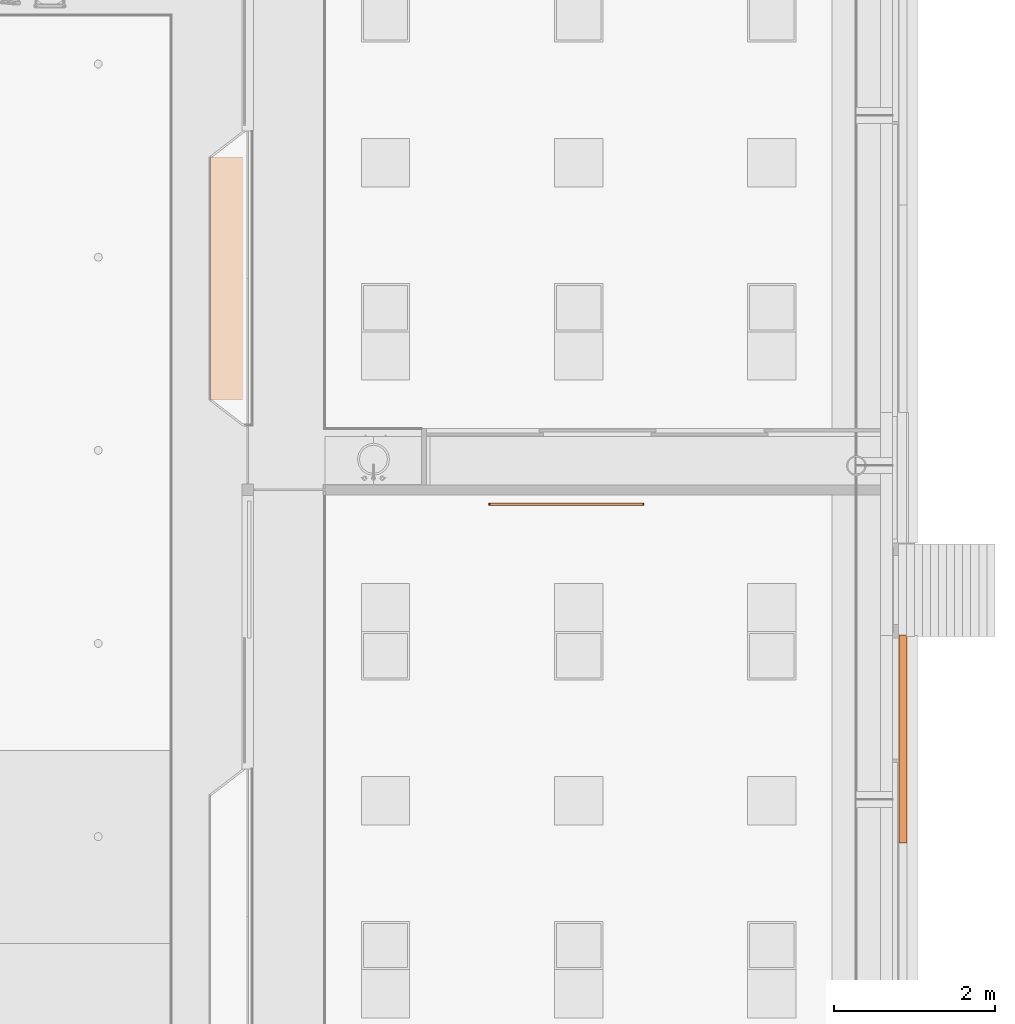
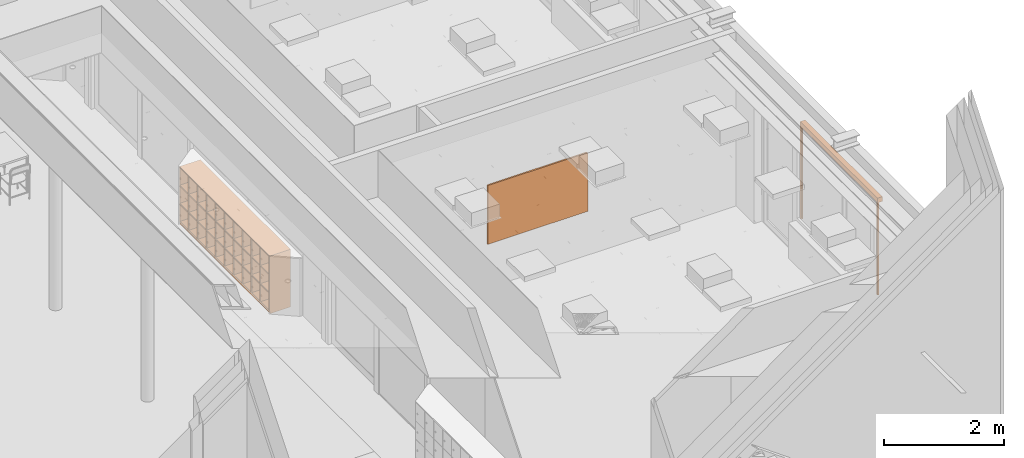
# One storey, part 333 of 347: 3 proxies.
"""IFC2X3 building model written with IfcOpenShell, lengths in millimetres."""

from ifc_helpers import new_model, entity, si_unit, converted_unit, derived_unit, money_unit, direction, frame, origin_with_axes, place, context, subcontext, project, spatial, open_shell, faceted_brep, surface_model, source, transform, mapped, type_object, type_shapes, element, save


model = new_model("IFC2X3")

# Units and contexts
model_context = context("Model", 3, precision=0.01, world=origin_with_axes(), true_north=direction((0.0, 1.0)))
plan_context = context("Plan", 3, precision=0.01, world=origin_with_axes(), true_north=direction((0.0, 1.0)))
body_context = subcontext(model_context, "Body", "Model", "MODEL_VIEW")
ifc_project = project(units=[si_unit("LENGTHUNIT", "METRE", prefix="MILLI"), si_unit("AREAUNIT", "SQUARE_METRE"), si_unit("VOLUMEUNIT", "CUBIC_METRE"), converted_unit("PLANEANGLEUNIT", "DEGREE", entity("IfcPlaneAngleMeasure", 0.0174532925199), si_unit("PLANEANGLEUNIT", "RADIAN"), dimensions=[0, 0, 0, 0, 0, 0, 0]), money_unit("EUR"), converted_unit("TIMEUNIT", "Year", entity("IfcTimeMeasure", 31556926.0), si_unit("TIMEUNIT", "SECOND"), dimensions=[0, 0, 1, 0, 0, 0, 0]), si_unit("MASSUNIT", "GRAM", prefix="KILO"), si_unit("THERMODYNAMICTEMPERATUREUNIT", "DEGREE_CELSIUS"), si_unit("LUMINOUSINTENSITYUNIT", "LUMEN"), si_unit("ENERGYUNIT", "JOULE", prefix="MEGA"), derived_unit("THERMALCONDUCTANCEUNIT", [(si_unit("POWERUNIT", "WATT"), 1), (si_unit("LENGTHUNIT", "METRE"), -1), (si_unit("THERMODYNAMICTEMPERATUREUNIT", "KELVIN"), -1)]), derived_unit("SPECIFICHEATCAPACITYUNIT", [(si_unit("ENERGYUNIT", "JOULE"), 1), (si_unit("MASSUNIT", "GRAM", prefix="KILO"), -1), (si_unit("THERMODYNAMICTEMPERATUREUNIT", "KELVIN"), -1)]), derived_unit("MASSDENSITYUNIT", [(si_unit("MASSUNIT", "GRAM", prefix="KILO"), 1), (si_unit("VOLUMEUNIT", "CUBIC_METRE"), -1)])], contexts=[model_context, plan_context])

# Site, building, storey
site_placement = place(None, origin_with_axes())
site = spatial("IfcSite", under=ifc_project, at=site_placement, Name="Site", CompositionType="ELEMENT")
building_placement = place(site_placement, origin_with_axes())
building = spatial("IfcBuilding", under=site, at=building_placement, Name="Naam gebouw", CompositionType="ELEMENT")
storey_placement = place(building_placement, origin_with_axes())
storey = spatial("IfcBuildingStorey", under=building, at=storey_placement, Name="begane grond", CompositionType="ELEMENT", Elevation=0.0)

# Proxies
building_element_proxy_type_1 = type_object("IfcBuildingElementProxyType", Name="Digitaal bord 25", PredefinedType="NOTDEFINED")
shared_shape_1 = source(origin_with_axes(), body_context, "Body", "SurfaceModel", [
    faceted_brep([(0.0, 0.0, 1000.0), (1930.0, 0.0, 1000.0), (1930.0, -30.0, 1000.0), (0.0, -30.0, 1000.0), (0.0, 0.0, 2185.0), (4.3933982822, 0.0, 2195.60660172), (15.0, 0.0, 2200.0), (1915.0, 0.0, 2200.0), (1925.60660172, 0.0, 2195.60660172), (1930.0, 0.0, 2185.0), (20.0, 0.0, 1025.0), (1910.0, 0.0, 1025.0), (1910.0, 0.0, 2180.0), (20.0, 0.0, 2180.0), (1930.0, -30.0, 2185.0), (1925.60660172, -30.0, 2195.60660172), (1915.0, -30.0, 2200.0), (15.0, -30.0, 2200.0), (4.3933982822, -30.0, 2195.60660172), (0.0, -30.0, 2185.0), (20.0, -30.0, 1025.0), (20.0, -30.0, 2180.0), (1910.0, -30.0, 2180.0), (1910.0, -30.0, 1025.0)], [[[0, 1, 2, 3]], [[0, 4, 5, 6, 7, 8, 9, 1], [10, 11, 12, 13]], [[1, 9, 14, 2]], [[3, 2, 14, 15, 16, 17, 18, 19], [20, 21, 22, 23]], [[4, 0, 3, 19]], [[5, 4, 19, 18]], [[6, 5, 18, 17]], [[7, 6, 17, 16]], [[8, 7, 16, 15]], [[9, 8, 15, 14]], [[11, 10, 20, 23]], [[12, 11, 23, 22]], [[13, 12, 22, 21]], [[10, 13, 21, 20]]]),
    faceted_brep([(20.0, 0.0, 1025.0), (1910.0, 0.0, 1025.0), (1910.0, -29.0, 1025.0), (20.0, -29.0, 1025.0), (20.0, 0.0, 2180.0), (1910.0, 0.0, 2180.0), (1910.0, -29.0, 2180.0), (20.0, -29.0, 2180.0)], [[[0, 1, 2, 3]], [[0, 4, 5, 1]], [[1, 5, 6, 2]], [[3, 2, 6, 7]], [[4, 0, 3, 7]], [[5, 4, 7, 6]]]),
    surface_model("IfcShellBasedSurfaceModel", [(20.0, -30.0, 1025.0), (1910.0, -30.0, 1025.0), (1910.0, -30.0, 2180.0), (20.0, -30.0, 2180.0)], [open_shell([[[0, 1, 2, 3]]])]),
])
type_shapes(building_element_proxy_type_1, [shared_shape_1])
proxy_1_placement = place(storey_placement, frame((51007.443853, 19887.5, 0.0), z_axis=(0.0, 0.0, 1.0), x_axis=(1.0, 0.0, 0.0)))
element("IfcBuildingElementProxy", 1, at=proxy_1_placement, inside=storey, type_object=building_element_proxy_type_1, Name="82_DiGi-bord", context=body_context, shape_type="MappedRepresentation", body=[
    mapped(shared_shape_1, transform((0.0, 0.0, 0.0))),
])
building_element_proxy_type_2 = type_object("IfcBuildingElementProxyType", Name="Screen 25 KM", PredefinedType="NOTDEFINED")
shared_shape_2 = source(origin_with_axes(), body_context, "Body", "SurfaceModel", [
    faceted_brep([(0.0, 0.0, 0.0), (0.0, 0.0, 1885.0), (0.0, -28.0, 1885.0), (0.0, -28.0, 0.0), (-38.0, 0.0, 0.0), (-38.0, 0.0, 1885.0), (-38.0, -4.0, 1885.0), (-35.0, -4.0, 1885.0), (-35.0, -3.0, 1885.0), (-3.0, -3.0, 1885.0), (-3.0, -25.0, 1885.0), (-35.0, -25.0, 1885.0), (-35.0, -24.0, 1885.0), (-38.0, -24.0, 1885.0), (-38.0, -28.0, 1885.0), (-38.0, -28.0, 0.0), (-38.0, -24.0, 0.0), (-35.0, -24.0, 0.0), (-35.0, -25.0, 0.0), (-3.0, -25.0, 0.0), (-3.0, -3.0, 0.0), (-35.0, -3.0, 0.0), (-35.0, -4.0, 0.0), (-38.0, -4.0, 0.0)], [[[0, 1, 2, 3]], [[4, 5, 1, 0]], [[1, 5, 6, 7, 8, 9, 10, 11, 12, 13, 14, 2]], [[3, 2, 14, 15]], [[0, 3, 15, 16, 17, 18, 19, 20, 21, 22, 23, 4]], [[23, 6, 5, 4]], [[22, 7, 6, 23]], [[21, 8, 7, 22]], [[20, 9, 8, 21]], [[19, 10, 9, 20]], [[18, 11, 10, 19]], [[17, 12, 11, 18]], [[16, 13, 12, 17]], [[15, 14, 13, 16]]]),
    faceted_brep([(-2582.00000015, 0.0, 0.0), (-2582.00000015, -28.0, 0.0), (-2582.00000015, -28.0, 1885.0), (-2582.00000015, 0.0, 1885.0), (-2544.00000015, 0.0, 0.0), (-2544.00000015, -4.0, 0.0), (-2547.00000015, -4.0, 0.0), (-2547.00000015, -3.0, 0.0), (-2579.00000015, -3.0, 0.0), (-2579.00000015, -25.0, 0.0), (-2547.00000015, -25.0, 0.0), (-2547.00000015, -24.0, 0.0), (-2544.00000015, -24.0, 0.0), (-2544.00000015, -28.0, 0.0), (-2544.00000015, -28.0, 1885.0), (-2544.00000015, -24.0, 1885.0), (-2547.00000015, -24.0, 1885.0), (-2547.00000015, -25.0, 1885.0), (-2579.00000015, -25.0, 1885.0), (-2579.00000015, -3.0, 1885.0), (-2547.00000015, -3.0, 1885.0), (-2547.00000015, -4.0, 1885.0), (-2544.00000015, -4.0, 1885.0), (-2544.00000015, 0.0, 1885.0)], [[[0, 1, 2, 3]], [[0, 4, 5, 6, 7, 8, 9, 10, 11, 12, 13, 1]], [[1, 13, 14, 2]], [[3, 2, 14, 15, 16, 17, 18, 19, 20, 21, 22, 23]], [[4, 0, 3, 23]], [[5, 4, 23, 22]], [[6, 5, 22, 21]], [[7, 6, 21, 20]], [[8, 7, 20, 19]], [[9, 8, 19, 18]], [[10, 9, 18, 17]], [[11, 10, 17, 16]], [[12, 11, 16, 15]], [[13, 12, 15, 14]]]),
    surface_model("IfcShellBasedSurfaceModel", [(0.0, 0.0, 1980.0), (0.0, -95.0, 1980.0), (0.0, -95.0, 1885.0), (0.0, 0.0, 1885.0)], [open_shell([[[0, 1, 2, 3]]])]),
    surface_model("IfcShellBasedSurfaceModel", [(-0.01, 0.0, 1980.0), (-2581.99000015, 0.0, 1980.0), (-2581.99000015, -95.0, 1980.0), (-0.00999999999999, -95.0, 1980.0), (-0.01, 0.0, 1888.0), (-2581.99000015, 0.0, 1888.0), (-2581.99000015, -6.0, 1888.0), (-2581.99000015, -6.0, 1891.0), (-2581.99000015, -3.0, 1891.0), (-2581.99000015, -3.0, 1977.0), (-2581.99000015, -92.0, 1977.0), (-2581.99000015, -92.0, 1888.0), (-2581.99000015, -28.0, 1888.0), (-2581.99000015, -28.0, 1882.0), (-2581.99000015, -31.0, 1882.0), (-2581.99000015, -31.0, 1885.0), (-2581.99000015, -95.0, 1885.0), (-0.01, -95.0, 1885.0), (-0.01, -31.0, 1885.0), (-0.01, -31.0, 1882.0), (-0.01, -28.0, 1882.0), (-0.01, -28.0, 1888.0), (-0.01, -92.0, 1888.0), (-0.00999999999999, -92.0, 1977.0), (-0.01, -3.0, 1977.0), (-0.01, -3.0, 1891.0), (-0.01, -6.0, 1891.0), (-0.01, -6.0, 1888.0)], [open_shell([[[0, 1, 2, 3]], [[4, 5, 1, 0]], [[1, 5, 6, 7, 8, 9, 10, 11, 12, 13, 14, 15, 16, 2]], [[3, 2, 16, 17]], [[0, 3, 17, 18, 19, 20, 21, 22, 23, 24, 25, 26, 27, 4]], [[19, 14, 13, 20]], [[18, 15, 14, 19]], [[17, 16, 15, 18]]])]),
    surface_model("IfcShellBasedSurfaceModel", [(-2581.99000015, 0.0, 1980.0), (-2581.99000015, -95.0, 1980.0), (-2581.99000015, -95.0, 1885.0), (-2581.99000015, 0.0, 1885.0)], [open_shell([[[0, 1, 2, 3]]])]),
])
type_shapes(building_element_proxy_type_2, [shared_shape_2])
proxy_2_placement = place(storey_placement, frame((56108.0000442, 18244.5000005, 720.0), z_axis=(0.0, 0.0, 1.0), x_axis=(0.0, 1.0, 0.0)))
element("IfcBuildingElementProxy", 2, at=proxy_2_placement, inside=storey, type_object=building_element_proxy_type_2, Name="_78 garderobe", context=body_context, shape_type="MappedRepresentation", body=[
    mapped(shared_shape_2, transform((0.0, 0.0, 0.0))),
])
building_element_proxy_type_3 = type_object("IfcBuildingElementProxyType", Name="Kast modulair 25", PredefinedType="NOTDEFINED")
shared_shape_3 = source(origin_with_axes(), body_context, "Body", "Brep", [
    faceted_brep([(0.0, 10.0, 0.0), (0.0, 10.0, 50.0), (-3018.0, 10.0, 50.0), (-3018.0, 10.0, 0.0), (0.0, 400.0, 0.0), (0.0, 400.0, 50.0), (-3018.0, 400.0, 50.0), (-3018.0, 400.0, 0.0)], [[[0, 1, 2, 3]], [[4, 5, 1, 0]], [[1, 5, 6, 2]], [[3, 2, 6, 7]], [[0, 3, 7, 4]], [[7, 6, 5, 4]]]),
    faceted_brep([(-18.0, 400.0, 68.0), (-18.0, 382.0, 68.0), (-3000.0, 382.0, 68.0), (-3000.0, 400.0, 68.0), (-18.0, 400.0, 1160.0), (-18.0, 382.0, 1160.0), (-3000.0, 382.0, 1160.0), (-3000.0, 382.0, 790.0), (-3000.0, 382.0, 420.0), (-3000.0, 400.0, 420.0), (-3000.0, 400.0, 790.0), (-3000.0, 400.0, 1160.0)], [[[0, 1, 2, 3]], [[4, 5, 1, 0]], [[1, 5, 6, 7, 8, 2]], [[3, 2, 8, 9]], [[0, 3, 9, 10, 11, 4]], [[11, 6, 5, 4]], [[10, 7, 6, 11]], [[9, 8, 7, 10]]]),
    faceted_brep([(-3018.0, 0.0, 50.0), (-3018.0, 400.0, 50.0), (0.0, 400.0, 50.0), (0.0, 0.0, 50.0), (-3018.0, 0.0, 68.0), (-3018.0, 400.0, 68.0), (0.0, 400.0, 68.0), (0.0, 0.0, 68.0)], [[[0, 1, 2, 3]], [[0, 4, 5, 1]], [[1, 5, 6, 2]], [[2, 6, 7, 3]], [[3, 7, 4, 0]], [[7, 6, 5, 4]]]),
    faceted_brep([(-18.0, 0.0, 68.0), (-18.0, 400.0, 68.0), (0.0, 400.0, 68.0), (0.0, 0.0, 68.0), (-18.0, 0.0, 420.0), (-18.0, 400.0, 420.0), (0.0, 400.0, 420.0), (0.0, 0.0, 420.0)], [[[0, 1, 2, 3]], [[0, 4, 5, 1]], [[1, 5, 6, 2]], [[2, 6, 7, 3]], [[3, 7, 4, 0]], [[7, 6, 5, 4]]]),
    faceted_brep([(-318.0, 0.0, 68.0), (-318.0, 382.0, 68.0), (-300.0, 382.0, 68.0), (-300.0, 0.0, 68.0), (-318.0, 0.0, 420.0), (-318.0, 382.0, 420.0), (-300.0, 382.0, 420.0), (-300.0, 0.0, 420.0)], [[[0, 1, 2, 3]], [[0, 4, 5, 1]], [[1, 5, 6, 2]], [[2, 6, 7, 3]], [[3, 7, 4, 0]], [[7, 6, 5, 4]]]),
    faceted_brep([(-618.0, 0.0, 68.0), (-618.0, 382.0, 68.0), (-600.0, 382.0, 68.0), (-600.0, 0.0, 68.0), (-618.0, 0.0, 420.0), (-618.0, 382.0, 420.0), (-600.0, 382.0, 420.0), (-600.0, 0.0, 420.0)], [[[0, 1, 2, 3]], [[0, 4, 5, 1]], [[1, 5, 6, 2]], [[2, 6, 7, 3]], [[3, 7, 4, 0]], [[7, 6, 5, 4]]]),
    faceted_brep([(-918.0, 0.0, 68.0), (-918.0, 382.0, 68.0), (-900.0, 382.0, 68.0), (-900.0, 0.0, 68.0), (-918.0, 0.0, 420.0), (-918.0, 382.0, 420.0), (-900.0, 382.0, 420.0), (-900.0, 0.0, 420.0)], [[[0, 1, 2, 3]], [[0, 4, 5, 1]], [[1, 5, 6, 2]], [[2, 6, 7, 3]], [[3, 7, 4, 0]], [[7, 6, 5, 4]]]),
    faceted_brep([(-1218.0, 0.0, 68.0), (-1218.0, 382.0, 68.0), (-1200.0, 382.0, 68.0), (-1200.0, 0.0, 68.0), (-1218.0, 0.0, 420.0), (-1218.0, 382.0, 420.0), (-1200.0, 382.0, 420.0), (-1200.0, 0.0, 420.0)], [[[0, 1, 2, 3]], [[0, 4, 5, 1]], [[1, 5, 6, 2]], [[2, 6, 7, 3]], [[3, 7, 4, 0]], [[7, 6, 5, 4]]]),
    faceted_brep([(-1518.0, 0.0, 68.0), (-1518.0, 382.0, 68.0), (-1500.0, 382.0, 68.0), (-1500.0, 0.0, 68.0), (-1518.0, 0.0, 420.0), (-1518.0, 382.0, 420.0), (-1500.0, 382.0, 420.0), (-1500.0, 0.0, 420.0)], [[[0, 1, 2, 3]], [[0, 4, 5, 1]], [[1, 5, 6, 2]], [[2, 6, 7, 3]], [[3, 7, 4, 0]], [[7, 6, 5, 4]]]),
    faceted_brep([(-1818.0, 0.0, 68.0), (-1818.0, 382.0, 68.0), (-1800.0, 382.0, 68.0), (-1800.0, 0.0, 68.0), (-1818.0, 0.0, 420.0), (-1818.0, 382.0, 420.0), (-1800.0, 382.0, 420.0), (-1800.0, 0.0, 420.0)], [[[0, 1, 2, 3]], [[0, 4, 5, 1]], [[1, 5, 6, 2]], [[2, 6, 7, 3]], [[3, 7, 4, 0]], [[7, 6, 5, 4]]]),
    faceted_brep([(-2118.0, 0.0, 68.0), (-2118.0, 382.0, 68.0), (-2100.0, 382.0, 68.0), (-2100.0, 0.0, 68.0), (-2118.0, 0.0, 420.0), (-2118.0, 382.0, 420.0), (-2100.0, 382.0, 420.0), (-2100.0, 0.0, 420.0)], [[[0, 1, 2, 3]], [[0, 4, 5, 1]], [[1, 5, 6, 2]], [[2, 6, 7, 3]], [[3, 7, 4, 0]], [[7, 6, 5, 4]]]),
    faceted_brep([(-2418.0, 0.0, 68.0), (-2418.0, 382.0, 68.0), (-2400.0, 382.0, 68.0), (-2400.0, 0.0, 68.0), (-2418.0, 0.0, 420.0), (-2418.0, 382.0, 420.0), (-2400.0, 382.0, 420.0), (-2400.0, 0.0, 420.0)], [[[0, 1, 2, 3]], [[0, 4, 5, 1]], [[1, 5, 6, 2]], [[2, 6, 7, 3]], [[3, 7, 4, 0]], [[7, 6, 5, 4]]]),
    faceted_brep([(-2718.0, 0.0, 68.0), (-2718.0, 382.0, 68.0), (-2700.0, 382.0, 68.0), (-2700.0, 0.0, 68.0), (-2718.0, 0.0, 420.0), (-2718.0, 382.0, 420.0), (-2700.0, 382.0, 420.0), (-2700.0, 0.0, 420.0)], [[[0, 1, 2, 3]], [[0, 4, 5, 1]], [[1, 5, 6, 2]], [[2, 6, 7, 3]], [[3, 7, 4, 0]], [[7, 6, 5, 4]]]),
    faceted_brep([(-3018.0, 0.0, 68.0), (-3018.0, 400.0, 68.0), (-3000.0, 400.0, 68.0), (-3000.0, 0.0, 68.0), (-3018.0, 0.0, 420.0), (-3018.0, 400.0, 420.0), (-3000.0, 400.0, 420.0), (-3000.0, 0.0, 420.0)], [[[0, 1, 2, 3]], [[0, 4, 5, 1]], [[1, 5, 6, 2]], [[2, 6, 7, 3]], [[3, 7, 4, 0]], [[7, 6, 5, 4]]]),
    faceted_brep([(-3000.0, 400.0, 420.0), (-3018.0, 400.0, 420.0), (-3018.0, 400.0, 438.0), (-3000.0, 400.0, 438.0), (-3000.0, 382.0, 420.0), (-18.0, 382.0, 420.0), (-18.0, 400.0, 420.0), (0.0, 400.0, 420.0), (0.0, 0.0, 420.0), (-3018.0, 0.0, 420.0), (-3018.0, 0.0, 438.0), (-18.0, 382.0, 438.0), (-3000.0, 382.0, 438.0), (0.0, 0.0, 438.0), (0.0, 400.0, 438.0), (-18.0, 400.0, 438.0)], [[[0, 1, 2, 3]], [[4, 5, 6, 7, 8, 9, 1, 0]], [[1, 9, 10, 2]], [[11, 12, 3, 2, 10, 13, 14, 15]], [[12, 4, 0, 3]], [[11, 5, 4, 12]], [[6, 5, 11, 15]], [[15, 14, 7, 6]], [[8, 7, 14, 13]], [[9, 8, 13, 10]]]),
    faceted_brep([(-3000.0, 400.0, 790.0), (-3018.0, 400.0, 790.0), (-3018.0, 400.0, 808.0), (-3000.0, 400.0, 808.0), (-3000.0, 382.0, 790.0), (-18.0, 382.0, 790.0), (-18.0, 400.0, 790.0), (0.0, 400.0, 790.0), (0.0, 0.0, 790.0), (-3018.0, 0.0, 790.0), (-3018.0, 0.0, 808.0), (-18.0, 382.0, 808.0), (-3000.0, 382.0, 808.0), (0.0, 0.0, 808.0), (0.0, 400.0, 808.0), (-18.0, 400.0, 808.0)], [[[0, 1, 2, 3]], [[4, 5, 6, 7, 8, 9, 1, 0]], [[1, 9, 10, 2]], [[11, 12, 3, 2, 10, 13, 14, 15]], [[12, 4, 0, 3]], [[11, 5, 4, 12]], [[6, 5, 11, 15]], [[15, 14, 7, 6]], [[8, 7, 14, 13]], [[9, 8, 13, 10]]]),
    faceted_brep([(-18.0, 0.0, 438.0), (-18.0, 400.0, 438.0), (0.0, 400.0, 438.0), (0.0, 0.0, 438.0), (-18.0, 0.0, 790.0), (-18.0, 400.0, 790.0), (0.0, 400.0, 790.0), (0.0, 0.0, 790.0)], [[[0, 1, 2, 3]], [[0, 4, 5, 1]], [[1, 5, 6, 2]], [[2, 6, 7, 3]], [[3, 7, 4, 0]], [[7, 6, 5, 4]]]),
    faceted_brep([(-318.0, 0.0, 438.0), (-318.0, 382.0, 438.0), (-300.0, 382.0, 438.0), (-300.0, 0.0, 438.0), (-318.0, 0.0, 790.0), (-318.0, 382.0, 790.0), (-300.0, 382.0, 790.0), (-300.0, 0.0, 790.0)], [[[0, 1, 2, 3]], [[0, 4, 5, 1]], [[1, 5, 6, 2]], [[2, 6, 7, 3]], [[3, 7, 4, 0]], [[7, 6, 5, 4]]]),
    faceted_brep([(-618.0, 0.0, 438.0), (-618.0, 382.0, 438.0), (-600.0, 382.0, 438.0), (-600.0, 0.0, 438.0), (-618.0, 0.0, 790.0), (-618.0, 382.0, 790.0), (-600.0, 382.0, 790.0), (-600.0, 0.0, 790.0)], [[[0, 1, 2, 3]], [[0, 4, 5, 1]], [[1, 5, 6, 2]], [[2, 6, 7, 3]], [[3, 7, 4, 0]], [[7, 6, 5, 4]]]),
    faceted_brep([(-918.0, 0.0, 438.0), (-918.0, 382.0, 438.0), (-900.0, 382.0, 438.0), (-900.0, 0.0, 438.0), (-918.0, 0.0, 790.0), (-918.0, 382.0, 790.0), (-900.0, 382.0, 790.0), (-900.0, 0.0, 790.0)], [[[0, 1, 2, 3]], [[0, 4, 5, 1]], [[1, 5, 6, 2]], [[2, 6, 7, 3]], [[3, 7, 4, 0]], [[7, 6, 5, 4]]]),
    faceted_brep([(-1218.0, 0.0, 438.0), (-1218.0, 382.0, 438.0), (-1200.0, 382.0, 438.0), (-1200.0, 0.0, 438.0), (-1218.0, 0.0, 790.0), (-1218.0, 382.0, 790.0), (-1200.0, 382.0, 790.0), (-1200.0, 0.0, 790.0)], [[[0, 1, 2, 3]], [[0, 4, 5, 1]], [[1, 5, 6, 2]], [[2, 6, 7, 3]], [[3, 7, 4, 0]], [[7, 6, 5, 4]]]),
    faceted_brep([(-1518.0, 0.0, 438.0), (-1518.0, 382.0, 438.0), (-1500.0, 382.0, 438.0), (-1500.0, 0.0, 438.0), (-1518.0, 0.0, 790.0), (-1518.0, 382.0, 790.0), (-1500.0, 382.0, 790.0), (-1500.0, 0.0, 790.0)], [[[0, 1, 2, 3]], [[0, 4, 5, 1]], [[1, 5, 6, 2]], [[2, 6, 7, 3]], [[3, 7, 4, 0]], [[7, 6, 5, 4]]]),
    faceted_brep([(-1818.0, 0.0, 438.0), (-1818.0, 382.0, 438.0), (-1800.0, 382.0, 438.0), (-1800.0, 0.0, 438.0), (-1818.0, 0.0, 790.0), (-1818.0, 382.0, 790.0), (-1800.0, 382.0, 790.0), (-1800.0, 0.0, 790.0)], [[[0, 1, 2, 3]], [[0, 4, 5, 1]], [[1, 5, 6, 2]], [[2, 6, 7, 3]], [[3, 7, 4, 0]], [[7, 6, 5, 4]]]),
    faceted_brep([(-2118.0, 0.0, 438.0), (-2118.0, 382.0, 438.0), (-2100.0, 382.0, 438.0), (-2100.0, 0.0, 438.0), (-2118.0, 0.0, 790.0), (-2118.0, 382.0, 790.0), (-2100.0, 382.0, 790.0), (-2100.0, 0.0, 790.0)], [[[0, 1, 2, 3]], [[0, 4, 5, 1]], [[1, 5, 6, 2]], [[2, 6, 7, 3]], [[3, 7, 4, 0]], [[7, 6, 5, 4]]]),
    faceted_brep([(-2418.0, 0.0, 438.0), (-2418.0, 382.0, 438.0), (-2400.0, 382.0, 438.0), (-2400.0, 0.0, 438.0), (-2418.0, 0.0, 790.0), (-2418.0, 382.0, 790.0), (-2400.0, 382.0, 790.0), (-2400.0, 0.0, 790.0)], [[[0, 1, 2, 3]], [[0, 4, 5, 1]], [[1, 5, 6, 2]], [[2, 6, 7, 3]], [[3, 7, 4, 0]], [[7, 6, 5, 4]]]),
    faceted_brep([(-2718.0, 0.0, 438.0), (-2718.0, 382.0, 438.0), (-2700.0, 382.0, 438.0), (-2700.0, 0.0, 438.0), (-2718.0, 0.0, 790.0), (-2718.0, 382.0, 790.0), (-2700.0, 382.0, 790.0), (-2700.0, 0.0, 790.0)], [[[0, 1, 2, 3]], [[0, 4, 5, 1]], [[1, 5, 6, 2]], [[2, 6, 7, 3]], [[3, 7, 4, 0]], [[7, 6, 5, 4]]]),
    faceted_brep([(-3018.0, 0.0, 438.0), (-3018.0, 400.0, 438.0), (-3000.0, 400.0, 438.0), (-3000.0, 0.0, 438.0), (-3018.0, 0.0, 790.0), (-3018.0, 400.0, 790.0), (-3000.0, 400.0, 790.0), (-3000.0, 0.0, 790.0)], [[[0, 1, 2, 3]], [[0, 4, 5, 1]], [[1, 5, 6, 2]], [[2, 6, 7, 3]], [[3, 7, 4, 0]], [[7, 6, 5, 4]]]),
    faceted_brep([(0.0, 0.0, 1160.0), (0.0, 0.0, 1178.0), (-3018.0, 0.0, 1178.0), (-3018.0, 0.0, 1160.0), (0.0, 400.0, 1160.0), (0.0, 400.0, 1178.0), (-3018.0, 400.0, 1178.0), (-3018.0, 400.0, 1160.0)], [[[0, 1, 2, 3]], [[4, 5, 1, 0]], [[1, 5, 6, 2]], [[3, 2, 6, 7]], [[0, 3, 7, 4]], [[7, 6, 5, 4]]]),
    faceted_brep([(-18.0, 0.0, 808.0), (-18.0, 400.0, 808.0), (0.0, 400.0, 808.0), (0.0, 0.0, 808.0), (-18.0, 0.0, 1160.0), (-18.0, 400.0, 1160.0), (0.0, 400.0, 1160.0), (0.0, 0.0, 1160.0)], [[[0, 1, 2, 3]], [[0, 4, 5, 1]], [[1, 5, 6, 2]], [[2, 6, 7, 3]], [[3, 7, 4, 0]], [[7, 6, 5, 4]]]),
    faceted_brep([(-318.0, 0.0, 808.0), (-318.0, 382.0, 808.0), (-300.0, 382.0, 808.0), (-300.0, 0.0, 808.0), (-318.0, 0.0, 1160.0), (-318.0, 382.0, 1160.0), (-300.0, 382.0, 1160.0), (-300.0, 0.0, 1160.0)], [[[0, 1, 2, 3]], [[0, 4, 5, 1]], [[1, 5, 6, 2]], [[2, 6, 7, 3]], [[3, 7, 4, 0]], [[7, 6, 5, 4]]]),
    faceted_brep([(-618.0, 0.0, 808.0), (-618.0, 382.0, 808.0), (-600.0, 382.0, 808.0), (-600.0, 0.0, 808.0), (-618.0, 0.0, 1160.0), (-618.0, 382.0, 1160.0), (-600.0, 382.0, 1160.0), (-600.0, 0.0, 1160.0)], [[[0, 1, 2, 3]], [[0, 4, 5, 1]], [[1, 5, 6, 2]], [[2, 6, 7, 3]], [[3, 7, 4, 0]], [[7, 6, 5, 4]]]),
    faceted_brep([(-918.0, 0.0, 808.0), (-918.0, 382.0, 808.0), (-900.0, 382.0, 808.0), (-900.0, 0.0, 808.0), (-918.0, 0.0, 1160.0), (-918.0, 382.0, 1160.0), (-900.0, 382.0, 1160.0), (-900.0, 0.0, 1160.0)], [[[0, 1, 2, 3]], [[0, 4, 5, 1]], [[1, 5, 6, 2]], [[2, 6, 7, 3]], [[3, 7, 4, 0]], [[7, 6, 5, 4]]]),
    faceted_brep([(-1218.0, 0.0, 808.0), (-1218.0, 382.0, 808.0), (-1200.0, 382.0, 808.0), (-1200.0, 0.0, 808.0), (-1218.0, 0.0, 1160.0), (-1218.0, 382.0, 1160.0), (-1200.0, 382.0, 1160.0), (-1200.0, 0.0, 1160.0)], [[[0, 1, 2, 3]], [[0, 4, 5, 1]], [[1, 5, 6, 2]], [[2, 6, 7, 3]], [[3, 7, 4, 0]], [[7, 6, 5, 4]]]),
    faceted_brep([(-1518.0, 0.0, 808.0), (-1518.0, 382.0, 808.0), (-1500.0, 382.0, 808.0), (-1500.0, 0.0, 808.0), (-1518.0, 0.0, 1160.0), (-1518.0, 382.0, 1160.0), (-1500.0, 382.0, 1160.0), (-1500.0, 0.0, 1160.0)], [[[0, 1, 2, 3]], [[0, 4, 5, 1]], [[1, 5, 6, 2]], [[2, 6, 7, 3]], [[3, 7, 4, 0]], [[7, 6, 5, 4]]]),
    faceted_brep([(-1818.0, 0.0, 808.0), (-1818.0, 382.0, 808.0), (-1800.0, 382.0, 808.0), (-1800.0, 0.0, 808.0), (-1818.0, 0.0, 1160.0), (-1818.0, 382.0, 1160.0), (-1800.0, 382.0, 1160.0), (-1800.0, 0.0, 1160.0)], [[[0, 1, 2, 3]], [[0, 4, 5, 1]], [[1, 5, 6, 2]], [[2, 6, 7, 3]], [[3, 7, 4, 0]], [[7, 6, 5, 4]]]),
    faceted_brep([(-2118.0, 0.0, 808.0), (-2118.0, 382.0, 808.0), (-2100.0, 382.0, 808.0), (-2100.0, 0.0, 808.0), (-2118.0, 0.0, 1160.0), (-2118.0, 382.0, 1160.0), (-2100.0, 382.0, 1160.0), (-2100.0, 0.0, 1160.0)], [[[0, 1, 2, 3]], [[0, 4, 5, 1]], [[1, 5, 6, 2]], [[2, 6, 7, 3]], [[3, 7, 4, 0]], [[7, 6, 5, 4]]]),
    faceted_brep([(-2418.0, 0.0, 808.0), (-2418.0, 382.0, 808.0), (-2400.0, 382.0, 808.0), (-2400.0, 0.0, 808.0), (-2418.0, 0.0, 1160.0), (-2418.0, 382.0, 1160.0), (-2400.0, 382.0, 1160.0), (-2400.0, 0.0, 1160.0)], [[[0, 1, 2, 3]], [[0, 4, 5, 1]], [[1, 5, 6, 2]], [[2, 6, 7, 3]], [[3, 7, 4, 0]], [[7, 6, 5, 4]]]),
    faceted_brep([(-2718.0, 0.0, 808.0), (-2718.0, 382.0, 808.0), (-2700.0, 382.0, 808.0), (-2700.0, 0.0, 808.0), (-2718.0, 0.0, 1160.0), (-2718.0, 382.0, 1160.0), (-2700.0, 382.0, 1160.0), (-2700.0, 0.0, 1160.0)], [[[0, 1, 2, 3]], [[0, 4, 5, 1]], [[1, 5, 6, 2]], [[2, 6, 7, 3]], [[3, 7, 4, 0]], [[7, 6, 5, 4]]]),
    faceted_brep([(-3018.0, 0.0, 808.0), (-3018.0, 400.0, 808.0), (-3000.0, 400.0, 808.0), (-3000.0, 0.0, 808.0), (-3018.0, 0.0, 1160.0), (-3018.0, 400.0, 1160.0), (-3000.0, 400.0, 1160.0), (-3000.0, 0.0, 1160.0)], [[[0, 1, 2, 3]], [[0, 4, 5, 1]], [[1, 5, 6, 2]], [[2, 6, 7, 3]], [[3, 7, 4, 0]], [[7, 6, 5, 4]]]),
])
type_shapes(building_element_proxy_type_3, [shared_shape_3])
proxy_3_placement = place(storey_placement, frame((47549.99788, 21165.5, 0.0), z_axis=(0.0, 0.0, 1.0), x_axis=(0.0, -1.0, 0.0)))
element("IfcBuildingElementProxy", 3, at=proxy_3_placement, inside=storey, type_object=building_element_proxy_type_3, Name="72_72 garderobe", context=body_context, shape_type="MappedRepresentation", body=[
    mapped(shared_shape_3, transform((0.0, 0.0, 0.0))),
])

save(model, "model.ifc")
